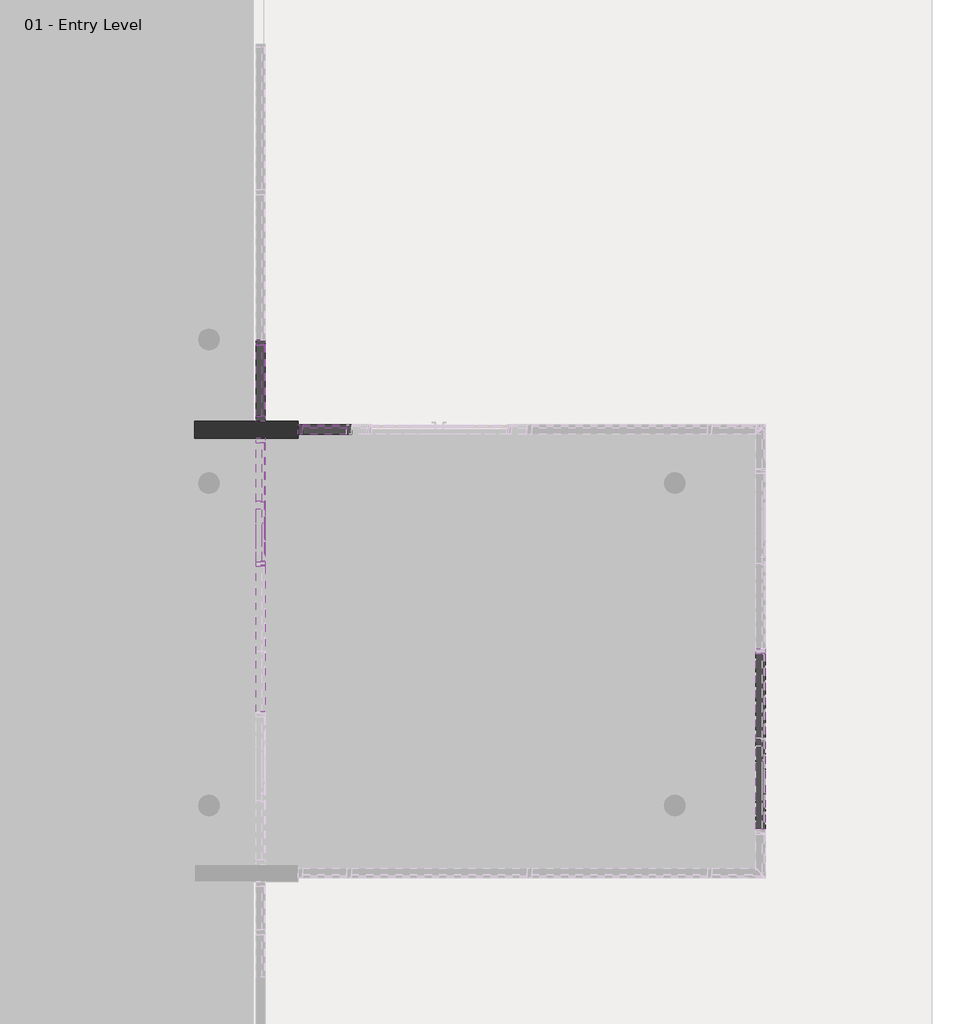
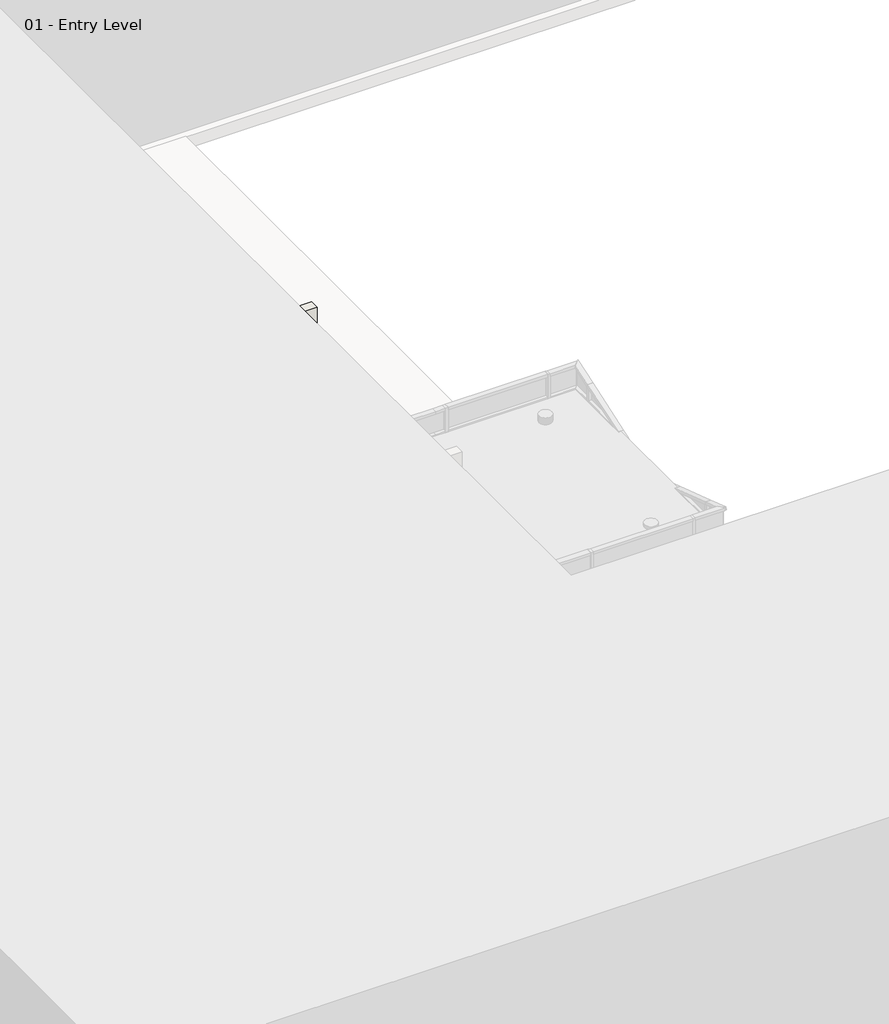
# One storey, part 15 of 34: 95 members, 25 plates, 1 wall.
"""IFC4 building model written with IfcOpenShell, lengths in millimetres."""

from ifc_helpers import new_model, si_unit, origin, origin_with_axes, place, context, project, spatial, polyline, outline, extrude, transform, mapped, element, save
from components import member_2b49869a, member_75074519, member_391b434c, member_9e90ae50, member_6f7cbf6b, member_280eb951, member_97732064, member_4efea63f, member_b0570460, member_a66a3142, member_c840947a, member_9193c932, member_18e22e2d, member_6e77e263, member_47bfaf8a, member_89bfb2f9, member_f4359540, member_5aa65f11, member_b5354135, member_c327c56d, member_2eb7018d, member_80bb9b3a, member_02b8d6b6, system_panel_glazed_f9d9f547, system_panel_glazed_3c16f4b8, system_panel_glazed_f6fca0b1, system_panel_glazed_f30ba6ae, system_panel_glazed_bfb2913e, system_panel_glazed_9f006979, system_panel_glazed_0805a858, system_panel_glazed_439dd39a, system_panel_glazed_65392b54

model = new_model("IFC4")

# Units and contexts
model_context = context("Model", 3, world=origin())
ifc_project = project(units=[si_unit("LENGTHUNIT", "METRE", prefix="MILLI")], contexts=[model_context])

# Site, building, storey
site = spatial("IfcSite", under=ifc_project)
building = spatial("IfcBuilding", under=site)
storey = spatial("IfcBuildingStorey", under=building, Name="01 - Entry Level", Elevation=0.0)

# Members
placement = place(None, origin())
member_shape = member_2b49869a(model_context)
element("IfcMember", 1, ObjectType="Rectangular Mullion : 2.5\" x 5\" rectangular", at=placement, inside=storey, context=model_context, shape_type="MappedRepresentation", body=[
    mapped(member_shape, transform((17184.0207476, 23720.35, 9753.6), x_axis=(0.0, 1.0, 0.0), y_axis=(1.0, 0.0, 0.0), z_axis=(0.0, 0.0, -1.0))),
])
element("IfcMember", 2, ObjectType="Rectangular Mullion : 2.5\" x 5\" rectangular", at=placement, inside=storey, context=model_context, shape_type="MappedRepresentation", body=[
    mapped(member_shape, transform((17184.0207476, 20729.5, 9753.6), x_axis=(0.0, 1.0, 0.0), y_axis=(1.0, 0.0, 0.0), z_axis=(0.0, 0.0, -1.0))),
])
member_2_shape = member_75074519(model_context)
element("IfcMember", 3, ObjectType="Rectangular Mullion : 2.5\" x 5\" rectangular", at=placement, inside=storey, context=model_context, shape_type="MappedRepresentation", body=[
    mapped(member_2_shape, transform((17184.0207476, 22659.9, 10972.8), x_axis=(0.0, -1.0, 0.0), y_axis=(1.0, 0.0, 0.0), z_axis=(0.0, 0.0, 1.0))),
])
element("IfcMember", 4, ObjectType="Rectangular Mullion : 2.5\" x 5\" rectangular", at=placement, inside=storey, context=model_context, shape_type="MappedRepresentation", body=[
    mapped(member_2_shape, transform((17184.0207476, 22431.3, 9753.6), x_axis=(0.0, 1.0, 0.0), y_axis=(1.0, 0.0, 0.0), z_axis=(0.0, 0.0, -1.0))),
])
member_3_shape = member_391b434c(model_context)
element("IfcMember", 5, ObjectType="Rectangular Mullion : 2.5\" x 5\" rectangular", at=placement, inside=storey, context=model_context, shape_type="MappedRepresentation", body=[
    mapped(member_3_shape, transform((17184.0207476, 20697.75, 10972.8), x_axis=(0.0, 0.0, 1.0), y_axis=(1.0, 0.0, 0.0), z_axis=(0.0, 1.0, 0.0))),
])
element("IfcMember", 6, ObjectType="Rectangular Mullion : 2.5\" x 5\" rectangular", at=placement, inside=storey, context=model_context, shape_type="MappedRepresentation", body=[
    mapped(member_3_shape, transform((17184.0207476, 23752.1, 0.0), x_axis=(0.0, 0.0, -1.0), y_axis=(1.0, 0.0, 0.0), z_axis=(0.0, -1.0, 0.0))),
])
member_4_shape = member_9e90ae50(model_context)
element("IfcMember", 7, ObjectType="Rectangular Mullion : 2.5\" x 5\" rectangular", at=placement, inside=storey, context=model_context, shape_type="MappedRepresentation", body=[
    mapped(member_4_shape, transform((17184.0207476, 20697.75, 7315.2), x_axis=(0.0, 0.0, 1.0), y_axis=(1.0, 0.0, 0.0), z_axis=(0.0, 1.0, 0.0))),
])
element("IfcMember", 8, ObjectType="Rectangular Mullion : 2.5\" x 5\" rectangular", at=placement, inside=storey, context=model_context, shape_type="MappedRepresentation", body=[
    mapped(member_4_shape, transform((17184.0207476, 20697.75, 8534.4), x_axis=(0.0, 0.0, 1.0), y_axis=(1.0, 0.0, 0.0), z_axis=(0.0, 1.0, 0.0))),
])
element("IfcMember", 9, ObjectType="Rectangular Mullion : 2.5\" x 5\" rectangular", at=placement, inside=storey, context=model_context, shape_type="MappedRepresentation", body=[
    mapped(member_4_shape, transform((17184.0207476, 20697.75, 9753.6), x_axis=(0.0, 0.0, 1.0), y_axis=(1.0, 0.0, 0.0), z_axis=(0.0, 1.0, 0.0))),
])
element("IfcMember", 10, ObjectType="Rectangular Mullion : 2.5\" x 5\" rectangular", at=placement, inside=storey, context=model_context, shape_type="MappedRepresentation", body=[
    mapped(member_shape, transform((17184.0207476, 23720.35, 0.0), x_axis=(0.0, 1.0, 0.0), y_axis=(1.0, 0.0, 0.0), z_axis=(0.0, 0.0, -1.0))),
])
element("IfcMember", 11, ObjectType="Rectangular Mullion : 2.5\" x 5\" rectangular", at=placement, inside=storey, context=model_context, shape_type="MappedRepresentation", body=[
    mapped(member_shape, transform((17184.0207476, 23720.35, 1219.2), x_axis=(0.0, 1.0, 0.0), y_axis=(1.0, 0.0, 0.0), z_axis=(0.0, 0.0, -1.0))),
])
element("IfcMember", 12, ObjectType="Rectangular Mullion : 2.5\" x 5\" rectangular", at=placement, inside=storey, context=model_context, shape_type="MappedRepresentation", body=[
    mapped(member_shape, transform((17184.0207476, 23720.35, 2438.4), x_axis=(0.0, 1.0, 0.0), y_axis=(1.0, 0.0, 0.0), z_axis=(0.0, 0.0, -1.0))),
])
element("IfcMember", 13, ObjectType="Rectangular Mullion : 2.5\" x 5\" rectangular", at=placement, inside=storey, context=model_context, shape_type="MappedRepresentation", body=[
    mapped(member_shape, transform((17184.0207476, 23720.35, 3657.6), x_axis=(0.0, 1.0, 0.0), y_axis=(1.0, 0.0, 0.0), z_axis=(0.0, 0.0, -1.0))),
])
element("IfcMember", 14, ObjectType="Rectangular Mullion : 2.5\" x 5\" rectangular", at=placement, inside=storey, context=model_context, shape_type="MappedRepresentation", body=[
    mapped(member_shape, transform((17184.0207476, 23720.35, 4876.8), x_axis=(0.0, 1.0, 0.0), y_axis=(1.0, 0.0, 0.0), z_axis=(0.0, 0.0, -1.0))),
])
element("IfcMember", 15, ObjectType="Rectangular Mullion : 2.5\" x 5\" rectangular", at=placement, inside=storey, context=model_context, shape_type="MappedRepresentation", body=[
    mapped(member_shape, transform((17184.0207476, 23720.35, 6096.0), x_axis=(0.0, 1.0, 0.0), y_axis=(1.0, 0.0, 0.0), z_axis=(0.0, 0.0, -1.0))),
])
element("IfcMember", 16, ObjectType="Rectangular Mullion : 2.5\" x 5\" rectangular", at=placement, inside=storey, context=model_context, shape_type="MappedRepresentation", body=[
    mapped(member_shape, transform((17184.0207476, 23720.35, 7315.2), x_axis=(0.0, 1.0, 0.0), y_axis=(1.0, 0.0, 0.0), z_axis=(0.0, 0.0, -1.0))),
])
element("IfcMember", 17, ObjectType="Rectangular Mullion : 2.5\" x 5\" rectangular", at=placement, inside=storey, context=model_context, shape_type="MappedRepresentation", body=[
    mapped(member_shape, transform((17184.0207476, 23720.35, 8534.4), x_axis=(0.0, 1.0, 0.0), y_axis=(1.0, 0.0, 0.0), z_axis=(0.0, 0.0, -1.0))),
])
element("IfcMember", 18, ObjectType="Rectangular Mullion : 2.5\" x 5\" rectangular", at=placement, inside=storey, context=model_context, shape_type="MappedRepresentation", body=[
    mapped(member_shape, transform((17184.0207476, 20729.5, 7315.2), x_axis=(0.0, 1.0, 0.0), y_axis=(1.0, 0.0, 0.0), z_axis=(0.0, 0.0, -1.0))),
])
element("IfcMember", 19, ObjectType="Rectangular Mullion : 2.5\" x 5\" rectangular", at=placement, inside=storey, context=model_context, shape_type="MappedRepresentation", body=[
    mapped(member_shape, transform((17184.0207476, 20729.5, 8534.4), x_axis=(0.0, 1.0, 0.0), y_axis=(1.0, 0.0, 0.0), z_axis=(0.0, 0.0, -1.0))),
])
member_5_shape = member_6f7cbf6b(model_context)
element("IfcMember", 20, ObjectType="Rectangular Mullion : 2.5\" x 5\" rectangular", at=placement, inside=storey, context=model_context, shape_type="MappedRepresentation", body=[
    mapped(member_5_shape, transform((17184.0207476, 22367.8, 10972.8), x_axis=(0.0, 0.0, 1.0), y_axis=(1.0, 0.0, 0.0), z_axis=(0.0, 1.0, 0.0))),
])
member_6_shape = member_280eb951(model_context)
element("IfcMember", 21, ObjectType="Rectangular Mullion : 2.5\" x 5\" rectangular", at=placement, inside=storey, context=model_context, shape_type="MappedRepresentation", body=[
    mapped(member_6_shape, transform((17184.0207476, 20729.5, 7031.1207436), x_axis=(0.0, 0.31622776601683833, -0.9486832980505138), y_axis=(1.0, 0.0, 0.0), z_axis=(0.0, -0.9486832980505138, -0.31622776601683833))),
])
member_7_shape = member_97732064(model_context)
element("IfcMember", 22, ObjectType="Rectangular Mullion : 2.5\" x 5\" rectangular", at=placement, inside=storey, context=model_context, shape_type="MappedRepresentation", body=[
    mapped(member_7_shape, transform((17184.0207476, 21581.7377692, 7315.2), x_axis=(0.0, 0.3162277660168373, -0.9486832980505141), y_axis=(1.0, 0.0, 0.0), z_axis=(0.0, -0.948683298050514, -0.3162277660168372))),
])
member_8_shape = member_4efea63f(model_context)
element("IfcMember", 23, ObjectType="Rectangular Mullion : 2.5\" x 5\" rectangular", at=placement, inside=storey, context=model_context, shape_type="MappedRepresentation", body=[
    mapped(member_8_shape, transform((17184.0207476, 21581.7377692, 7315.2), x_axis=(0.0, 0.0, 1.0), y_axis=(1.0, 0.0, 0.0), z_axis=(0.0, 1.0, 0.0))),
])
member_9_shape = member_b0570460(model_context)
element("IfcMember", 24, ObjectType="Rectangular Mullion : 2.5\" x 5\" rectangular", at=placement, inside=storey, context=model_context, shape_type="MappedRepresentation", body=[
    mapped(member_9_shape, transform((17184.0207476, 22367.8, 8534.4), x_axis=(0.0, 0.0, 1.0), y_axis=(1.0, 0.0, 0.0), z_axis=(0.0, 1.0, 0.0))),
])
element("IfcMember", 25, ObjectType="Rectangular Mullion : 2.5\" x 5\" rectangular", at=placement, inside=storey, context=model_context, shape_type="MappedRepresentation", body=[
    mapped(member_9_shape, transform((17184.0207476, 22367.8, 9753.6), x_axis=(0.0, 0.0, 1.0), y_axis=(1.0, 0.0, 0.0), z_axis=(0.0, 1.0, 0.0))),
])
member_10_shape = member_a66a3142(model_context)
element("IfcMember", 26, ObjectType="Rectangular Mullion : 2.5\" x 5\" rectangular", at=placement, inside=storey, context=model_context, shape_type="MappedRepresentation", body=[
    mapped(member_10_shape, transform((17184.0207476, 20729.5, 7031.1207436), x_axis=(0.0, 1.0, 0.0), y_axis=(1.0, 0.0, 0.0), z_axis=(0.0, 0.0, -1.0))),
])
member_11_shape = member_c840947a(model_context)
element("IfcMember", 27, ObjectType="Rectangular Mullion : 2.5\" x 5\" rectangular", at=placement, inside=storey, context=model_context, shape_type="MappedRepresentation", body=[
    mapped(member_11_shape, transform((17184.0207476, 22431.3, 7598.3874103), x_axis=(0.0, 1.0, 0.0), y_axis=(1.0, 0.0, 0.0), z_axis=(0.0, 0.0, -1.0))),
])
element("IfcMember", 28, ObjectType="Rectangular Mullion : 2.5\" x 5\" rectangular", at=placement, inside=storey, context=model_context, shape_type="MappedRepresentation", body=[
    mapped(member_2_shape, transform((17184.0207476, 22431.3, 8534.4), x_axis=(0.0, 1.0, 0.0), y_axis=(1.0, 0.0, 0.0), z_axis=(0.0, 0.0, -1.0))),
])
element("IfcMember", 29, ObjectType="Rectangular Mullion : 2.5\" x 5\" rectangular", at=placement, inside=storey, context=model_context, shape_type="MappedRepresentation", body=[
    mapped(member_2_shape, transform((17184.0207476, 22659.9, 1219.2), x_axis=(0.0, -1.0, 0.0), y_axis=(1.0, 0.0, 0.0), z_axis=(0.0, 0.0, 1.0))),
])
element("IfcMember", 30, ObjectType="Rectangular Mullion : 2.5\" x 5\" rectangular", at=placement, inside=storey, context=model_context, shape_type="MappedRepresentation", body=[
    mapped(member_2_shape, transform((17184.0207476, 22659.9, 2438.4), x_axis=(0.0, -1.0, 0.0), y_axis=(1.0, 0.0, 0.0), z_axis=(0.0, 0.0, 1.0))),
])
element("IfcMember", 31, ObjectType="Rectangular Mullion : 2.5\" x 5\" rectangular", at=placement, inside=storey, context=model_context, shape_type="MappedRepresentation", body=[
    mapped(member_2_shape, transform((17184.0207476, 22659.9, 3657.6), x_axis=(0.0, -1.0, 0.0), y_axis=(1.0, 0.0, 0.0), z_axis=(0.0, 0.0, 1.0))),
])
element("IfcMember", 32, ObjectType="Rectangular Mullion : 2.5\" x 5\" rectangular", at=placement, inside=storey, context=model_context, shape_type="MappedRepresentation", body=[
    mapped(member_2_shape, transform((17184.0207476, 22659.9, 4876.8), x_axis=(0.0, -1.0, 0.0), y_axis=(1.0, 0.0, 0.0), z_axis=(0.0, 0.0, 1.0))),
])
element("IfcMember", 33, ObjectType="Rectangular Mullion : 2.5\" x 5\" rectangular", at=placement, inside=storey, context=model_context, shape_type="MappedRepresentation", body=[
    mapped(member_2_shape, transform((17184.0207476, 22659.9, 6096.0), x_axis=(0.0, -1.0, 0.0), y_axis=(1.0, 0.0, 0.0), z_axis=(0.0, 0.0, 1.0))),
])
element("IfcMember", 34, ObjectType="Rectangular Mullion : 2.5\" x 5\" rectangular", at=placement, inside=storey, context=model_context, shape_type="MappedRepresentation", body=[
    mapped(member_2_shape, transform((17184.0207476, 22659.9, 7315.2), x_axis=(0.0, -1.0, 0.0), y_axis=(1.0, 0.0, 0.0), z_axis=(0.0, 0.0, 1.0))),
])
element("IfcMember", 35, ObjectType="Rectangular Mullion : 2.5\" x 5\" rectangular", at=placement, inside=storey, context=model_context, shape_type="MappedRepresentation", body=[
    mapped(member_2_shape, transform((17184.0207476, 22659.9, 8534.4), x_axis=(0.0, -1.0, 0.0), y_axis=(1.0, 0.0, 0.0), z_axis=(0.0, 0.0, 1.0))),
])
element("IfcMember", 36, ObjectType="Rectangular Mullion : 2.5\" x 5\" rectangular", at=placement, inside=storey, context=model_context, shape_type="MappedRepresentation", body=[
    mapped(member_2_shape, transform((17184.0207476, 22659.9, 9753.6), x_axis=(0.0, -1.0, 0.0), y_axis=(1.0, 0.0, 0.0), z_axis=(0.0, 0.0, 1.0))),
])
member_12_shape = member_9193c932(model_context)
element("IfcMember", 37, ObjectType="Rectangular Mullion : 2.5\" x 5\" rectangular", at=placement, inside=storey, context=model_context, shape_type="MappedRepresentation", body=[
    mapped(member_12_shape, transform((17184.0207476, 23688.6, 10972.8), x_axis=(0.0, 0.0, 1.0), y_axis=(1.0, 0.0, 0.0), z_axis=(0.0, 1.0, 0.0))),
])
element("IfcMember", 38, ObjectType="Rectangular Mullion : 2.5\" x 5\" rectangular", at=placement, inside=storey, context=model_context, shape_type="MappedRepresentation", body=[
    mapped(member_12_shape, transform((17184.0207476, 22723.4, 0.0), x_axis=(0.0, 0.0, -1.0), y_axis=(1.0, 0.0, 0.0), z_axis=(0.0, -1.0, 0.0))),
])
member_13_shape = member_18e22e2d(model_context)
element("IfcMember", 39, ObjectType="Rectangular Mullion : 2.5\" x 5\" rectangular", at=placement, inside=storey, context=model_context, shape_type="MappedRepresentation", body=[
    mapped(member_13_shape, transform((17184.0207476, 23688.6, 1219.2), x_axis=(0.0, 0.0, 1.0), y_axis=(1.0, 0.0, 0.0), z_axis=(0.0, 1.0, 0.0))),
])
element("IfcMember", 40, ObjectType="Rectangular Mullion : 2.5\" x 5\" rectangular", at=placement, inside=storey, context=model_context, shape_type="MappedRepresentation", body=[
    mapped(member_13_shape, transform((17184.0207476, 23688.6, 2438.4), x_axis=(0.0, 0.0, 1.0), y_axis=(1.0, 0.0, 0.0), z_axis=(0.0, 1.0, 0.0))),
])
element("IfcMember", 41, ObjectType="Rectangular Mullion : 2.5\" x 5\" rectangular", at=placement, inside=storey, context=model_context, shape_type="MappedRepresentation", body=[
    mapped(member_13_shape, transform((17184.0207476, 23688.6, 3657.6), x_axis=(0.0, 0.0, 1.0), y_axis=(1.0, 0.0, 0.0), z_axis=(0.0, 1.0, 0.0))),
])
element("IfcMember", 42, ObjectType="Rectangular Mullion : 2.5\" x 5\" rectangular", at=placement, inside=storey, context=model_context, shape_type="MappedRepresentation", body=[
    mapped(member_13_shape, transform((17184.0207476, 23688.6, 4876.8), x_axis=(0.0, 0.0, 1.0), y_axis=(1.0, 0.0, 0.0), z_axis=(0.0, 1.0, 0.0))),
])
element("IfcMember", 43, ObjectType="Rectangular Mullion : 2.5\" x 5\" rectangular", at=placement, inside=storey, context=model_context, shape_type="MappedRepresentation", body=[
    mapped(member_13_shape, transform((17184.0207476, 23688.6, 6096.0), x_axis=(0.0, 0.0, 1.0), y_axis=(1.0, 0.0, 0.0), z_axis=(0.0, 1.0, 0.0))),
])
element("IfcMember", 44, ObjectType="Rectangular Mullion : 2.5\" x 5\" rectangular", at=placement, inside=storey, context=model_context, shape_type="MappedRepresentation", body=[
    mapped(member_13_shape, transform((17184.0207476, 23688.6, 7315.2), x_axis=(0.0, 0.0, 1.0), y_axis=(1.0, 0.0, 0.0), z_axis=(0.0, 1.0, 0.0))),
])
element("IfcMember", 45, ObjectType="Rectangular Mullion : 2.5\" x 5\" rectangular", at=placement, inside=storey, context=model_context, shape_type="MappedRepresentation", body=[
    mapped(member_13_shape, transform((17184.0207476, 23688.6, 8534.4), x_axis=(0.0, 0.0, 1.0), y_axis=(1.0, 0.0, 0.0), z_axis=(0.0, 1.0, 0.0))),
])
element("IfcMember", 46, ObjectType="Rectangular Mullion : 2.5\" x 5\" rectangular", at=placement, inside=storey, context=model_context, shape_type="MappedRepresentation", body=[
    mapped(member_13_shape, transform((17184.0207476, 23688.6, 9753.6), x_axis=(0.0, 0.0, 1.0), y_axis=(1.0, 0.0, 0.0), z_axis=(0.0, 1.0, 0.0))),
])
member_14_shape = member_6e77e263(model_context)
element("IfcMember", 47, ObjectType="Rectangular Mullion : 2.5\" x 5\" rectangular", at=placement, inside=storey, context=model_context, shape_type="MappedRepresentation", body=[
    mapped(member_14_shape, transform((18379.5615197, 22545.6, 0.0), x_axis=(-1.0, 0.0, 0.0), y_axis=(0.0, 1.0, 0.0), z_axis=(0.0, 0.0, -1.0))),
])
element("IfcMember", 48, ObjectType="Rectangular Mullion : 2.5\" x 5\" rectangular", at=placement, inside=storey, context=model_context, shape_type="MappedRepresentation", body=[
    mapped(member_14_shape, transform((18379.5615197, 22545.6, 609.6), x_axis=(-1.0, 0.0, 0.0), y_axis=(0.0, 1.0, 0.0), z_axis=(0.0, 0.0, -1.0))),
])
element("IfcMember", 49, ObjectType="Rectangular Mullion : 2.5\" x 5\" rectangular", at=placement, inside=storey, context=model_context, shape_type="MappedRepresentation", body=[
    mapped(member_14_shape, transform((18379.5615197, 22545.6, 1219.2), x_axis=(-1.0, 0.0, 0.0), y_axis=(0.0, 1.0, 0.0), z_axis=(0.0, 0.0, -1.0))),
])
element("IfcMember", 50, ObjectType="Rectangular Mullion : 2.5\" x 5\" rectangular", at=placement, inside=storey, context=model_context, shape_type="MappedRepresentation", body=[
    mapped(member_14_shape, transform((18379.5615197, 22545.6, 2438.4), x_axis=(-1.0, 0.0, 0.0), y_axis=(0.0, 1.0, 0.0), z_axis=(0.0, 0.0, -1.0))),
])
element("IfcMember", 51, ObjectType="Rectangular Mullion : 2.5\" x 5\" rectangular", at=placement, inside=storey, context=model_context, shape_type="MappedRepresentation", body=[
    mapped(member_14_shape, transform((18379.5615197, 22545.6, 3048.0), x_axis=(-1.0, 0.0, 0.0), y_axis=(0.0, 1.0, 0.0), z_axis=(0.0, 0.0, -1.0))),
])
element("IfcMember", 52, ObjectType="Rectangular Mullion : 2.5\" x 5\" rectangular", at=placement, inside=storey, context=model_context, shape_type="MappedRepresentation", body=[
    mapped(member_14_shape, transform((23947.0115197, 19548.4, 4876.8), x_axis=(0.0, 1.0, 0.0), y_axis=(1.0, 0.0, 0.0), z_axis=(0.0, 0.0, -1.0))),
])
element("IfcMember", 53, ObjectType="Rectangular Mullion : 2.5\" x 5\" rectangular", at=placement, inside=storey, context=model_context, shape_type="MappedRepresentation", body=[
    mapped(member_14_shape, transform((23947.0115197, 19548.4, 5486.4), x_axis=(0.0, 1.0, 0.0), y_axis=(1.0, 0.0, 0.0), z_axis=(0.0, 0.0, -1.0))),
])
element("IfcMember", 54, ObjectType="Rectangular Mullion : 2.5\" x 5\" rectangular", at=placement, inside=storey, context=model_context, shape_type="MappedRepresentation", body=[
    mapped(member_14_shape, transform((18379.5615197, 22545.6, 3657.6), x_axis=(-1.0, 0.0, 0.0), y_axis=(0.0, 1.0, 0.0), z_axis=(0.0, 0.0, -1.0))),
])
element("IfcMember", 55, ObjectType="Rectangular Mullion : 2.5\" x 5\" rectangular", at=placement, inside=storey, context=model_context, shape_type="MappedRepresentation", body=[
    mapped(member_14_shape, transform((18379.5615197, 22545.6, 4267.2), x_axis=(-1.0, 0.0, 0.0), y_axis=(0.0, 1.0, 0.0), z_axis=(0.0, 0.0, -1.0))),
])
element("IfcMember", 56, ObjectType="Rectangular Mullion : 2.5\" x 5\" rectangular", at=placement, inside=storey, context=model_context, shape_type="MappedRepresentation", body=[
    mapped(member_14_shape, transform((18379.5615197, 22545.6, 4876.8), x_axis=(-1.0, 0.0, 0.0), y_axis=(0.0, 1.0, 0.0), z_axis=(0.0, 0.0, -1.0))),
])
member_15_shape = member_47bfaf8a(model_context)
element("IfcMember", 57, ObjectType="Rectangular Mullion : 2.5\" x 5\" rectangular", at=placement, inside=storey, context=model_context, shape_type="MappedRepresentation", body=[
    mapped(member_15_shape, transform((17688.9115197, 22545.6, 0.0), x_axis=(-1.0, 0.0, 0.0), y_axis=(0.0, 1.0, 0.0), z_axis=(0.0, 0.0, -1.0))),
])
element("IfcMember", 58, ObjectType="Rectangular Mullion : 2.5\" x 5\" rectangular", at=placement, inside=storey, context=model_context, shape_type="MappedRepresentation", body=[
    mapped(member_15_shape, transform((17688.9115197, 22545.6, 609.6), x_axis=(-1.0, 0.0, 0.0), y_axis=(0.0, 1.0, 0.0), z_axis=(0.0, 0.0, -1.0))),
])
element("IfcMember", 59, ObjectType="Rectangular Mullion : 2.5\" x 5\" rectangular", at=placement, inside=storey, context=model_context, shape_type="MappedRepresentation", body=[
    mapped(member_15_shape, transform((17688.9115197, 22545.6, 1219.2), x_axis=(-1.0, 0.0, 0.0), y_axis=(0.0, 1.0, 0.0), z_axis=(0.0, 0.0, -1.0))),
])
element("IfcMember", 60, ObjectType="Rectangular Mullion : 2.5\" x 5\" rectangular", at=placement, inside=storey, context=model_context, shape_type="MappedRepresentation", body=[
    mapped(member_15_shape, transform((17688.9115197, 22545.6, 2438.4), x_axis=(-1.0, 0.0, 0.0), y_axis=(0.0, 1.0, 0.0), z_axis=(0.0, 0.0, -1.0))),
])
element("IfcMember", 61, ObjectType="Rectangular Mullion : 2.5\" x 5\" rectangular", at=placement, inside=storey, context=model_context, shape_type="MappedRepresentation", body=[
    mapped(member_15_shape, transform((17688.9115197, 22545.6, 3048.0), x_axis=(-1.0, 0.0, 0.0), y_axis=(0.0, 1.0, 0.0), z_axis=(0.0, 0.0, -1.0))),
])
element("IfcMember", 62, ObjectType="Rectangular Mullion : 2.5\" x 5\" rectangular", at=placement, inside=storey, context=model_context, shape_type="MappedRepresentation", body=[
    mapped(member_15_shape, transform((17688.9115197, 22545.6, 3657.6), x_axis=(-1.0, 0.0, 0.0), y_axis=(0.0, 1.0, 0.0), z_axis=(0.0, 0.0, -1.0))),
])
element("IfcMember", 63, ObjectType="Rectangular Mullion : 2.5\" x 5\" rectangular", at=placement, inside=storey, context=model_context, shape_type="MappedRepresentation", body=[
    mapped(member_15_shape, transform((17688.9115197, 22545.6, 4267.2), x_axis=(-1.0, 0.0, 0.0), y_axis=(0.0, 1.0, 0.0), z_axis=(0.0, 0.0, -1.0))),
])
element("IfcMember", 64, ObjectType="Rectangular Mullion : 2.5\" x 5\" rectangular", at=placement, inside=storey, context=model_context, shape_type="MappedRepresentation", body=[
    mapped(member_15_shape, transform((17688.9115197, 22545.6, 4876.8), x_axis=(-1.0, 0.0, 0.0), y_axis=(0.0, 1.0, 0.0), z_axis=(0.0, 0.0, -1.0))),
])
element("IfcMember", 65, ObjectType="Rectangular Mullion : 2.5\" x 5\" rectangular", at=placement, inside=storey, context=model_context, shape_type="MappedRepresentation", body=[
    mapped(member_15_shape, transform((17688.9115197, 22545.6, 5486.4), x_axis=(-1.0, 0.0, 0.0), y_axis=(0.0, 1.0, 0.0), z_axis=(0.0, 0.0, -1.0))),
])
element("IfcMember", 66, ObjectType="Rectangular Mullion : 2.5\" x 5\" rectangular", at=placement, inside=storey, context=model_context, shape_type="MappedRepresentation", body=[
    mapped(member_15_shape, transform((17688.9115197, 22545.6, 6096.0), x_axis=(-1.0, 0.0, 0.0), y_axis=(0.0, 1.0, 0.0), z_axis=(0.0, 0.0, -1.0))),
])
member_16_shape = member_89bfb2f9(model_context)
element("IfcMember", 67, ObjectType="Rectangular Mullion : 2.5\" x 5\" rectangular", at=placement, inside=storey, context=model_context, shape_type="MappedRepresentation", body=[
    mapped(member_16_shape, transform((23947.0115197, 19516.65, 609.6), x_axis=(0.0, 0.0, 1.0), y_axis=(1.0, 0.0, 0.0), z_axis=(0.0, 1.0, 0.0))),
])
element("IfcMember", 68, ObjectType="Rectangular Mullion : 2.5\" x 5\" rectangular", at=placement, inside=storey, context=model_context, shape_type="MappedRepresentation", body=[
    mapped(member_16_shape, transform((23947.0115197, 19516.65, 1219.2), x_axis=(0.0, 0.0, 1.0), y_axis=(1.0, 0.0, 0.0), z_axis=(0.0, 1.0, 0.0))),
])
element("IfcMember", 69, ObjectType="Rectangular Mullion : 2.5\" x 5\" rectangular", at=placement, inside=storey, context=model_context, shape_type="MappedRepresentation", body=[
    mapped(member_16_shape, transform((23947.0115197, 19516.65, 1828.8), x_axis=(0.0, 0.0, 1.0), y_axis=(1.0, 0.0, 0.0), z_axis=(0.0, 1.0, 0.0))),
])
element("IfcMember", 70, ObjectType="Rectangular Mullion : 2.5\" x 5\" rectangular", at=placement, inside=storey, context=model_context, shape_type="MappedRepresentation", body=[
    mapped(member_16_shape, transform((23947.0115197, 19516.65, 2438.4), x_axis=(0.0, 0.0, 1.0), y_axis=(1.0, 0.0, 0.0), z_axis=(0.0, 1.0, 0.0))),
])
element("IfcMember", 71, ObjectType="Rectangular Mullion : 2.5\" x 5\" rectangular", at=placement, inside=storey, context=model_context, shape_type="MappedRepresentation", body=[
    mapped(member_16_shape, transform((23947.0115197, 19516.65, 3048.0), x_axis=(0.0, 0.0, 1.0), y_axis=(1.0, 0.0, 0.0), z_axis=(0.0, 1.0, 0.0))),
])
element("IfcMember", 72, ObjectType="Rectangular Mullion : 2.5\" x 5\" rectangular", at=placement, inside=storey, context=model_context, shape_type="MappedRepresentation", body=[
    mapped(member_16_shape, transform((23947.0115197, 19516.65, 3657.6), x_axis=(0.0, 0.0, 1.0), y_axis=(1.0, 0.0, 0.0), z_axis=(0.0, 1.0, 0.0))),
])
element("IfcMember", 73, ObjectType="Rectangular Mullion : 2.5\" x 5\" rectangular", at=placement, inside=storey, context=model_context, shape_type="MappedRepresentation", body=[
    mapped(member_16_shape, transform((23947.0115197, 19516.65, 4267.2), x_axis=(0.0, 0.0, 1.0), y_axis=(1.0, 0.0, 0.0), z_axis=(0.0, 1.0, 0.0))),
])
element("IfcMember", 74, ObjectType="Rectangular Mullion : 2.5\" x 5\" rectangular", at=placement, inside=storey, context=model_context, shape_type="MappedRepresentation", body=[
    mapped(member_16_shape, transform((23947.0115197, 19516.65, 4876.8), x_axis=(0.0, 0.0, 1.0), y_axis=(1.0, 0.0, 0.0), z_axis=(0.0, 1.0, 0.0))),
])
element("IfcMember", 75, ObjectType="Rectangular Mullion : 2.5\" x 5\" rectangular", at=placement, inside=storey, context=model_context, shape_type="MappedRepresentation", body=[
    mapped(member_16_shape, transform((23947.0115197, 19516.65, 5486.4), x_axis=(0.0, 0.0, 1.0), y_axis=(1.0, 0.0, 0.0), z_axis=(0.0, 1.0, 0.0))),
])
element("IfcMember", 76, ObjectType="Rectangular Mullion : 2.5\" x 5\" rectangular", at=placement, inside=storey, context=model_context, shape_type="MappedRepresentation", body=[
    mapped(member_16_shape, transform((23947.0115197, 19516.65, 6096.0), x_axis=(0.0, 0.0, 1.0), y_axis=(1.0, 0.0, 0.0), z_axis=(0.0, 1.0, 0.0))),
])
member_17_shape = member_f4359540(model_context)
element("IfcMember", 77, ObjectType="Rectangular Mullion : 2.5\" x 5\" rectangular", at=placement, inside=storey, context=model_context, shape_type="MappedRepresentation", body=[
    mapped(member_17_shape, transform((23947.0115197, 19548.4, 6096.0), x_axis=(0.0, 1.0, 0.0), y_axis=(1.0, 0.0, 0.0), z_axis=(0.0, 0.0, -1.0))),
])
member_18_shape = member_5aa65f11(model_context)
element("IfcMember", 78, ObjectType="Rectangular Mullion : 2.5\" x 5\" rectangular", at=placement, inside=storey, context=model_context, shape_type="MappedRepresentation", body=[
    mapped(member_18_shape, transform((17752.4115197, 22545.6, 7315.2), x_axis=(0.0, 0.0, 1.0), y_axis=(0.0, 1.0, 0.0), z_axis=(-1.0, 0.0, 0.0))),
])
element("IfcMember", 79, ObjectType="Rectangular Mullion : 2.5\" x 5\" rectangular", at=placement, inside=storey, context=model_context, shape_type="MappedRepresentation", body=[
    mapped(member_18_shape, transform((18347.8115197, 22545.6, 0.0), x_axis=(0.0, 0.0, -1.0), y_axis=(0.0, 1.0, 0.0), z_axis=(1.0, 0.0, 0.0))),
])
member_19_shape = member_b5354135(model_context)
element("IfcMember", 80, ObjectType="Rectangular Mullion : 2.5\" x 5\" rectangular", at=placement, inside=storey, context=model_context, shape_type="MappedRepresentation", body=[
    mapped(member_19_shape, transform((17752.4115197, 22545.6, 609.6), x_axis=(0.0, 0.0, 1.0), y_axis=(0.0, 1.0, 0.0), z_axis=(-1.0, 0.0, 0.0))),
])
element("IfcMember", 81, ObjectType="Rectangular Mullion : 2.5\" x 5\" rectangular", at=placement, inside=storey, context=model_context, shape_type="MappedRepresentation", body=[
    mapped(member_19_shape, transform((17752.4115197, 22545.6, 1219.2), x_axis=(0.0, 0.0, 1.0), y_axis=(0.0, 1.0, 0.0), z_axis=(-1.0, 0.0, 0.0))),
])
element("IfcMember", 82, ObjectType="Rectangular Mullion : 2.5\" x 5\" rectangular", at=placement, inside=storey, context=model_context, shape_type="MappedRepresentation", body=[
    mapped(member_19_shape, transform((17752.4115197, 22545.6, 1828.8), x_axis=(0.0, 0.0, 1.0), y_axis=(0.0, 1.0, 0.0), z_axis=(-1.0, 0.0, 0.0))),
])
element("IfcMember", 83, ObjectType="Rectangular Mullion : 2.5\" x 5\" rectangular", at=placement, inside=storey, context=model_context, shape_type="MappedRepresentation", body=[
    mapped(member_19_shape, transform((17752.4115197, 22545.6, 2438.4), x_axis=(0.0, 0.0, 1.0), y_axis=(0.0, 1.0, 0.0), z_axis=(-1.0, 0.0, 0.0))),
])
element("IfcMember", 84, ObjectType="Rectangular Mullion : 2.5\" x 5\" rectangular", at=placement, inside=storey, context=model_context, shape_type="MappedRepresentation", body=[
    mapped(member_19_shape, transform((17752.4115197, 22545.6, 3048.0), x_axis=(0.0, 0.0, 1.0), y_axis=(0.0, 1.0, 0.0), z_axis=(-1.0, 0.0, 0.0))),
])
element("IfcMember", 85, ObjectType="Rectangular Mullion : 2.5\" x 5\" rectangular", at=placement, inside=storey, context=model_context, shape_type="MappedRepresentation", body=[
    mapped(member_19_shape, transform((17752.4115197, 22545.6, 3657.6), x_axis=(0.0, 0.0, 1.0), y_axis=(0.0, 1.0, 0.0), z_axis=(-1.0, 0.0, 0.0))),
])
element("IfcMember", 86, ObjectType="Rectangular Mullion : 2.5\" x 5\" rectangular", at=placement, inside=storey, context=model_context, shape_type="MappedRepresentation", body=[
    mapped(member_19_shape, transform((17752.4115197, 22545.6, 4267.2), x_axis=(0.0, 0.0, 1.0), y_axis=(0.0, 1.0, 0.0), z_axis=(-1.0, 0.0, 0.0))),
])
element("IfcMember", 87, ObjectType="Rectangular Mullion : 2.5\" x 5\" rectangular", at=placement, inside=storey, context=model_context, shape_type="MappedRepresentation", body=[
    mapped(member_19_shape, transform((17752.4115197, 22545.6, 4876.8), x_axis=(0.0, 0.0, 1.0), y_axis=(0.0, 1.0, 0.0), z_axis=(-1.0, 0.0, 0.0))),
])
element("IfcMember", 88, ObjectType="Rectangular Mullion : 2.5\" x 5\" rectangular", at=placement, inside=storey, context=model_context, shape_type="MappedRepresentation", body=[
    mapped(member_19_shape, transform((17752.4115197, 22545.6, 5486.4), x_axis=(0.0, 0.0, 1.0), y_axis=(0.0, 1.0, 0.0), z_axis=(-1.0, 0.0, 0.0))),
])
element("IfcMember", 89, ObjectType="Rectangular Mullion : 2.5\" x 5\" rectangular", at=placement, inside=storey, context=model_context, shape_type="MappedRepresentation", body=[
    mapped(member_19_shape, transform((17752.4115197, 22545.6, 6096.0), x_axis=(0.0, 0.0, 1.0), y_axis=(0.0, 1.0, 0.0), z_axis=(-1.0, 0.0, 0.0))),
])
element("IfcMember", 90, ObjectType="Rectangular Mullion : 2.5\" x 5\" rectangular", at=placement, inside=storey, context=model_context, shape_type="MappedRepresentation", body=[
    mapped(member_19_shape, transform((17752.4115197, 22545.6, 6705.6), x_axis=(0.0, 0.0, 1.0), y_axis=(0.0, 1.0, 0.0), z_axis=(-1.0, 0.0, 0.0))),
])
element("IfcMember", 91, ObjectType="Rectangular Mullion : 2.5\" x 5\" rectangular", at=placement, inside=storey, context=model_context, shape_type="MappedRepresentation", body=[
    mapped(member_15_shape, transform((17688.9115197, 22545.6, 6705.6), x_axis=(-1.0, 0.0, 0.0), y_axis=(0.0, 1.0, 0.0), z_axis=(0.0, 0.0, -1.0))),
])
member_20_shape = member_c327c56d(model_context)
element("IfcMember", 92, ObjectType="Rectangular Mullion : 2.5\" x 5\" rectangular", at=placement, inside=storey, context=model_context, shape_type="MappedRepresentation", body=[
    mapped(member_20_shape, transform((17688.9115197, 22545.6, 2165.35), x_axis=(-1.0, 0.0, 0.0), y_axis=(0.0, 1.0, 0.0), z_axis=(0.0, 0.0, -1.0))),
])
member_21_shape = member_2eb7018d(model_context)
element("IfcMember", 93, ObjectType="Rectangular Mullion : 2.5\" x 5\" rectangular", at=placement, inside=storey, context=model_context, shape_type="MappedRepresentation", body=[
    mapped(member_21_shape, transform((18411.3115197, 22545.6, 7315.2), x_axis=(0.0, 0.0, 1.0), y_axis=(0.0, 1.0, 0.0), z_axis=(-1.0, 0.0, 0.0))),
])
member_22_shape = member_80bb9b3a(model_context)
element("IfcMember", 94, ObjectType="Rectangular Mullion : 2.5\" x 5\" rectangular", at=placement, inside=storey, context=model_context, shape_type="MappedRepresentation", body=[
    mapped(member_22_shape, transform((18379.5615197, 22545.6, 1828.8), x_axis=(-1.0, 0.0, 0.0), y_axis=(0.0, 1.0, 0.0), z_axis=(0.0, 0.0, -1.0))),
])
member_23_shape = member_02b8d6b6(model_context)
element("IfcMember", 95, ObjectType="Rectangular Mullion : 2.5\" x 5\" rectangular", at=placement, inside=storey, context=model_context, shape_type="MappedRepresentation", body=[
    mapped(member_23_shape, transform((17688.9115197, 22545.6, 1828.8), x_axis=(-1.0, 0.0, 0.0), y_axis=(0.0, 1.0, 0.0), z_axis=(0.0, 0.0, -1.0))),
])

# Plates
system_panel_glazed_shape = system_panel_glazed_f9d9f547(model_context)
element("IfcPlate", 96, ObjectType="System Panel : Glazed", at=placement, inside=storey, context=model_context, shape_type="MappedRepresentation", body=[
    mapped(system_panel_glazed_shape, transform((17184.0207476, 21023.4665689, 7108.6389541), x_axis=(0.0, 1.0, 0.0), y_axis=(-1.0, 0.0, 0.0), z_axis=(0.0, 0.0, 1.0))),
])
system_panel_glazed_2_shape = system_panel_glazed_3c16f4b8(model_context)
element("IfcPlate", 97, ObjectType="System Panel : Glazed", at=placement, inside=storey, context=model_context, shape_type="MappedRepresentation", body=[
    mapped(system_panel_glazed_2_shape, transform((17184.0207476, 21564.525, 7346.95), x_axis=(0.0, 1.0, 0.0), y_axis=(-1.0, 0.0, 0.0), z_axis=(0.0, 0.0, 1.0))),
])
system_panel_glazed_3_shape = system_panel_glazed_f6fca0b1(model_context)
element("IfcPlate", 98, ObjectType="System Panel : Glazed", at=placement, inside=storey, context=model_context, shape_type="MappedRepresentation", body=[
    mapped(system_panel_glazed_3_shape, transform((17184.0207476, 21564.525, 8566.15), x_axis=(0.0, 1.0, 0.0), y_axis=(-1.0, 0.0, 0.0), z_axis=(0.0, 0.0, 1.0))),
])
system_panel_glazed_4_shape = system_panel_glazed_f30ba6ae(model_context)
element("IfcPlate", 99, ObjectType="System Panel : Glazed", at=placement, inside=storey, context=model_context, shape_type="MappedRepresentation", body=[
    mapped(system_panel_glazed_4_shape, transform((17184.0207476, 21564.525, 9785.35), x_axis=(0.0, 1.0, 0.0), y_axis=(-1.0, 0.0, 0.0), z_axis=(0.0, 0.0, 1.0))),
])
system_panel_glazed_5_shape = system_panel_glazed_bfb2913e(model_context)
element("IfcPlate", 100, ObjectType="System Panel : Glazed", at=placement, inside=storey, context=model_context, shape_type="MappedRepresentation", body=[
    mapped(system_panel_glazed_5_shape, transform((17184.0207476, 23206.0, 63.5), x_axis=(0.0, 1.0, 0.0), y_axis=(-1.0, 0.0, 0.0), z_axis=(0.0, 0.0, 1.0))),
])
element("IfcPlate", 101, ObjectType="System Panel : Glazed", at=placement, inside=storey, context=model_context, shape_type="MappedRepresentation", body=[
    mapped(system_panel_glazed_5_shape, transform((17184.0207476, 23206.0, 9785.35), x_axis=(0.0, 1.0, 0.0), y_axis=(-1.0, 0.0, 0.0), z_axis=(0.0, 0.0, 1.0))),
])
system_panel_glazed_6_shape = system_panel_glazed_9f006979(model_context)
element("IfcPlate", 102, ObjectType="System Panel : Glazed", at=placement, inside=storey, context=model_context, shape_type="MappedRepresentation", body=[
    mapped(system_panel_glazed_6_shape, transform((17184.0207476, 23206.0, 1250.95), x_axis=(0.0, 1.0, 0.0), y_axis=(-1.0, 0.0, 0.0), z_axis=(0.0, 0.0, 1.0))),
])
element("IfcPlate", 103, ObjectType="System Panel : Glazed", at=placement, inside=storey, context=model_context, shape_type="MappedRepresentation", body=[
    mapped(system_panel_glazed_6_shape, transform((17184.0207476, 23206.0, 2470.15), x_axis=(0.0, 1.0, 0.0), y_axis=(-1.0, 0.0, 0.0), z_axis=(0.0, 0.0, 1.0))),
])
element("IfcPlate", 104, ObjectType="System Panel : Glazed", at=placement, inside=storey, context=model_context, shape_type="MappedRepresentation", body=[
    mapped(system_panel_glazed_6_shape, transform((17184.0207476, 23206.0, 3689.35), x_axis=(0.0, 1.0, 0.0), y_axis=(-1.0, 0.0, 0.0), z_axis=(0.0, 0.0, 1.0))),
])
element("IfcPlate", 105, ObjectType="System Panel : Glazed", at=placement, inside=storey, context=model_context, shape_type="MappedRepresentation", body=[
    mapped(system_panel_glazed_6_shape, transform((17184.0207476, 23206.0, 4908.55), x_axis=(0.0, 1.0, 0.0), y_axis=(-1.0, 0.0, 0.0), z_axis=(0.0, 0.0, 1.0))),
])
element("IfcPlate", 106, ObjectType="System Panel : Glazed", at=placement, inside=storey, context=model_context, shape_type="MappedRepresentation", body=[
    mapped(system_panel_glazed_6_shape, transform((17184.0207476, 23206.0, 6127.75), x_axis=(0.0, 1.0, 0.0), y_axis=(-1.0, 0.0, 0.0), z_axis=(0.0, 0.0, 1.0))),
])
element("IfcPlate", 107, ObjectType="System Panel : Glazed", at=placement, inside=storey, context=model_context, shape_type="MappedRepresentation", body=[
    mapped(system_panel_glazed_6_shape, transform((17184.0207476, 23206.0, 7346.95), x_axis=(0.0, 1.0, 0.0), y_axis=(-1.0, 0.0, 0.0), z_axis=(0.0, 0.0, 1.0))),
])
element("IfcPlate", 108, ObjectType="System Panel : Glazed", at=placement, inside=storey, context=model_context, shape_type="MappedRepresentation", body=[
    mapped(system_panel_glazed_6_shape, transform((17184.0207476, 23206.0, 8566.15), x_axis=(0.0, 1.0, 0.0), y_axis=(-1.0, 0.0, 0.0), z_axis=(0.0, 0.0, 1.0))),
])
system_panel_glazed_7_shape = system_panel_glazed_0805a858(model_context)
element("IfcPlate", 109, ObjectType="System Panel : Glazed", at=placement, inside=storey, context=model_context, shape_type="MappedRepresentation", body=[
    mapped(system_panel_glazed_7_shape, transform((18050.1115197, 22545.6, 63.5), x_axis=(-1.0, 0.0, 0.0), y_axis=(0.0, -1.0, 0.0), z_axis=(0.0, 0.0, 1.0))),
])
element("IfcPlate", 110, ObjectType="System Panel : Glazed", at=placement, inside=storey, context=model_context, shape_type="MappedRepresentation", body=[
    mapped(system_panel_glazed_7_shape, transform((18050.1115197, 22545.6, 6737.35), x_axis=(-1.0, 0.0, 0.0), y_axis=(0.0, -1.0, 0.0), z_axis=(0.0, 0.0, 1.0))),
])
system_panel_glazed_8_shape = system_panel_glazed_439dd39a(model_context)
element("IfcPlate", 111, ObjectType="System Panel : Glazed", at=placement, inside=storey, context=model_context, shape_type="MappedRepresentation", body=[
    mapped(system_panel_glazed_8_shape, transform((18050.1115197, 22545.6, 641.35), x_axis=(-1.0, 0.0, 0.0), y_axis=(0.0, -1.0, 0.0), z_axis=(0.0, 0.0, 1.0))),
])
element("IfcPlate", 112, ObjectType="System Panel : Glazed", at=placement, inside=storey, context=model_context, shape_type="MappedRepresentation", body=[
    mapped(system_panel_glazed_8_shape, transform((18050.1115197, 22545.6, 1250.95), x_axis=(-1.0, 0.0, 0.0), y_axis=(0.0, -1.0, 0.0), z_axis=(0.0, 0.0, 1.0))),
])
element("IfcPlate", 113, ObjectType="System Panel : Glazed", at=placement, inside=storey, context=model_context, shape_type="MappedRepresentation", body=[
    mapped(system_panel_glazed_8_shape, transform((18050.1115197, 22545.6, 2470.15), x_axis=(-1.0, 0.0, 0.0), y_axis=(0.0, -1.0, 0.0), z_axis=(0.0, 0.0, 1.0))),
])
element("IfcPlate", 114, ObjectType="System Panel : Glazed", at=placement, inside=storey, context=model_context, shape_type="MappedRepresentation", body=[
    mapped(system_panel_glazed_8_shape, transform((18050.1115197, 22545.6, 3079.75), x_axis=(-1.0, 0.0, 0.0), y_axis=(0.0, -1.0, 0.0), z_axis=(0.0, 0.0, 1.0))),
])
element("IfcPlate", 115, ObjectType="System Panel : Glazed", at=placement, inside=storey, context=model_context, shape_type="MappedRepresentation", body=[
    mapped(system_panel_glazed_8_shape, transform((18050.1115197, 22545.6, 3689.35), x_axis=(-1.0, 0.0, 0.0), y_axis=(0.0, -1.0, 0.0), z_axis=(0.0, 0.0, 1.0))),
])
element("IfcPlate", 116, ObjectType="System Panel : Glazed", at=placement, inside=storey, context=model_context, shape_type="MappedRepresentation", body=[
    mapped(system_panel_glazed_8_shape, transform((18050.1115197, 22545.6, 4298.95), x_axis=(-1.0, 0.0, 0.0), y_axis=(0.0, -1.0, 0.0), z_axis=(0.0, 0.0, 1.0))),
])
element("IfcPlate", 117, ObjectType="System Panel : Glazed", at=placement, inside=storey, context=model_context, shape_type="MappedRepresentation", body=[
    mapped(system_panel_glazed_8_shape, transform((18050.1115197, 22545.6, 4908.55), x_axis=(-1.0, 0.0, 0.0), y_axis=(0.0, -1.0, 0.0), z_axis=(0.0, 0.0, 1.0))),
])
element("IfcPlate", 118, ObjectType="System Panel : Glazed", at=placement, inside=storey, context=model_context, shape_type="MappedRepresentation", body=[
    mapped(system_panel_glazed_8_shape, transform((18050.1115197, 22545.6, 5518.15), x_axis=(-1.0, 0.0, 0.0), y_axis=(0.0, -1.0, 0.0), z_axis=(0.0, 0.0, 1.0))),
])
element("IfcPlate", 119, ObjectType="System Panel : Glazed", at=placement, inside=storey, context=model_context, shape_type="MappedRepresentation", body=[
    mapped(system_panel_glazed_8_shape, transform((18050.1115197, 22545.6, 6127.75), x_axis=(-1.0, 0.0, 0.0), y_axis=(0.0, -1.0, 0.0), z_axis=(0.0, 0.0, 1.0))),
])
system_panel_glazed_9_shape = system_panel_glazed_65392b54(model_context)
element("IfcPlate", 120, ObjectType="System Panel : Glazed", at=placement, inside=storey, context=model_context, shape_type="MappedRepresentation", body=[
    mapped(system_panel_glazed_9_shape, transform((18050.1115197, 22545.6, 1860.55), x_axis=(-1.0, 0.0, 0.0), y_axis=(0.0, -1.0, 0.0), z_axis=(0.0, 0.0, 1.0))),
])

# Wall
element("IfcWall", 121, ObjectType="9\" concrete", at=placement, inside=storey, context=model_context, shape_type="SweptSolid", body=[
    extrude(outline(polyline([(17688.9115197, 22431.3), (16288.9115197, 22431.3), (16288.9115197, 22659.9), (17688.9115197, 22659.9), (17688.9115197, 22431.3)])), origin_with_axes(), (0.0, 0.0, 1.0), 10972.8),
])

save(model, "model.ifc")
